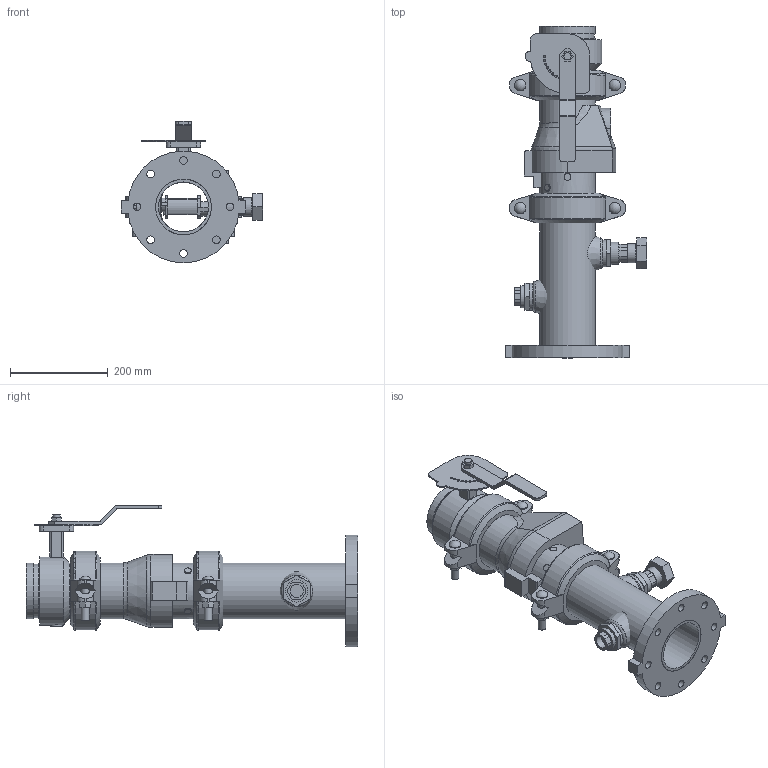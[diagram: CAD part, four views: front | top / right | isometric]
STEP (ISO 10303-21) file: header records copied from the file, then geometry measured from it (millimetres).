
FILE_DESCRIPTION(/* description */ ('VIC DVI PUMP DROP VERT S/380 (OGSxFLG) (S/924-1.25)','CAx-IF Rec.Pracs.---Representation and Presentation of Product Manufacturing Information (PMI)---4.0---2014-10-13'),/* implementation_level */ '2;1');
FILE_NAME(/* name */ 'C:\Users\Public\Documents\Victaulic.Temp\A765\Victaulic_IPS_Vertical DVI_CL 150_Series 380 (OGSxFLG)_924 (1.25)_04.0x04.0 (100x100).stp',/* time_stamp */ '2022-07-25T11:11:06+02:00',/* author */ ('Vjadhav'),/* organization */ ('Victaulic'),/* preprocessor_version */ 'ST-DEVELOPER v18',/* originating_system */ 'Autodesk Inventor 2020',/* authorisation */ '');
FILE_SCHEMA (('AP242_MANAGED_MODEL_BASED_3D_ENGINEERING_MIM_LF { 1 0 10303 442 1 1 4 }'));
Length unit declared in the file: inch
Products named in the file (8): 380_924 (1.25)-04.0x04.0; 741-04.0; Pipe-04.0x04.0; 177N-04.0; 761-04.0; 779-04.0; 923-04.0x0.75; 924-04.0x01.25
Assembly tree (8 placements, depth 2):
  380_924 (1.25)-04.0x04.0
    741-04.0
    Pipe-04.0x04.0
    177N-04.0  x2
    761-04.0
    779-04.0
    923-04.0x0.75
    924-04.0x01.25
Bounding box: 288.8 x 679.45 x 288.88 mm (x, y, z)
Volume: 5510987.7 mm3; surface area: 959656.1 mm2
Topology: 8 solids, 10 shells, 500 faces, 1292 edges, 862 vertices
Faces by surface type: plane 294, cylinder 172, cone 14, torus 14, sphere 4, bspline 2
Full cylindrical faces by diameter (mm): 4.826 x10, 8.636 x4, 13.716 x2, 14.986 x2, 15.875 x12, 21.336 x1, 22.86 x1, 23.495 x4, 26.67 x2, 38.608 x1, 42.164 x1, 45.974 x4, 48.514 x1, 55.118 x1, 55.626 x2, 101.6 x2, 102.26 x3, 110.084 x6, 114.3 x16, 139.7 x1
Entity records: 13920 total; most frequent: CARTESIAN_POINT 2759, DIRECTION 2293, ORIENTED_EDGE 2102, EDGE_CURVE 1051, AXIS2_PLACEMENT_3D 860, VERTEX_POINT 702, LINE 573, VECTOR 573
